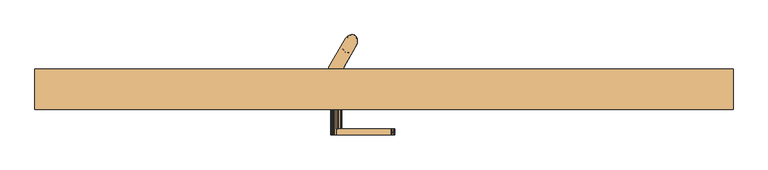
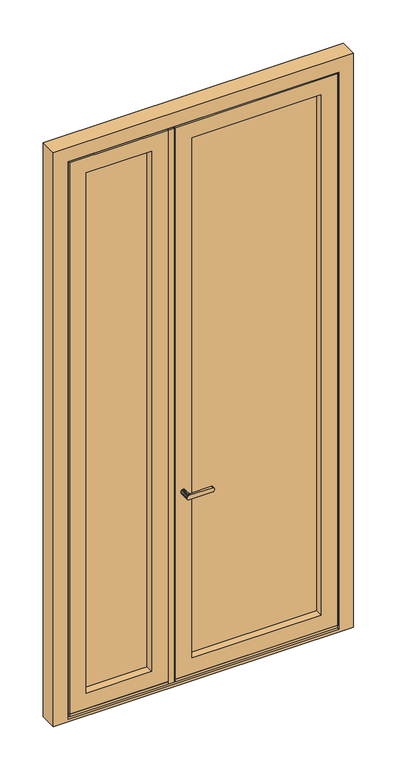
"""IFC4 building model written with IfcOpenShell, lengths in millimetres: door geometry, RDC Tierce."""

from ifc_helpers import new_model, si_unit, frame, origin, place, context, project, spatial, polyline, outline, extrude, faceted_brep, source, transform, mapped, element, save


def door_4f4fa615(model_context):
    return source(origin(), model_context, "Body", "SolidModel", [
        extrude(outline(polyline([(701.0, -24.0), (1397.0, -24.0), (1397.0, -62.0), (701.0, -62.0), (701.0, -24.0)])), frame((0.0, 0.0, 260.0), z_axis=(0.0, 0.0, 1.0), x_axis=(1.0, 0.0, 0.0)), (0.0, 0.0, 1.0), 2867.0),
        faceted_brep([(714.2287431, 56.5957857, 3173.5), (712.3389959, 59.5301259, 3173.5), (709.7797595, 61.6325784, 3173.5), (706.6793647, 62.7977178, 3173.5), (703.1932781, 62.9671188, 3173.5), (699.4963068, 62.1322872, 3173.5), (695.7738322, 60.3350848, 3173.5), (692.212515, 57.6656309, 3173.5), (688.9909342, 54.257783, 3173.5), (686.2706335, 50.2824248, 3173.5), (684.1880202, 45.9388975, 3173.5), (682.847525, 41.4450036, 3173.5), (682.3163661, 37.0260857, 3173.5), (682.6211779, 32.9037268, 3173.5), (683.7466761, 29.2846393, 3173.5), (685.6364232, 26.3502991, 3173.5), (688.1956596, 24.2478466, 3173.5), (691.2960545, 23.0827073, 3173.5), (694.7821411, 22.9133062, 3173.5), (698.4791124, 23.7481378, 3173.5), (702.2015869, 25.5453402, 3173.5), (705.7629042, 28.2147941, 3173.5), (708.9844849, 31.622642, 3173.5), (711.7047856, 35.5980002, 3173.5), (713.787399, 39.9415275, 3173.5), (715.1278941, 44.4354214, 3173.5), (715.6590531, 48.8543393, 3173.5), (715.3542412, 52.9766982, 3173.5), (691.2960545, 23.0827073, 213.5), (688.1956596, 24.2478466, 213.5), (685.6364232, 26.3502991, 213.5), (683.7466761, 29.2846393, 213.5), (682.6211779, 32.9037268, 213.5), (682.3163661, 37.0260857, 213.5), (682.847525, 41.4450036, 213.5), (684.1880202, 45.9388975, 213.5), (686.2706335, 50.2824248, 213.5), (688.9909342, 54.257783, 213.5), (692.212515, 57.6656309, 213.5), (695.7738322, 60.3350848, 213.5), (699.4963068, 62.1322872, 213.5), (703.1932781, 62.9671188, 213.5), (706.6793647, 62.7977178, 213.5), (709.7797595, 61.6325784, 213.5), (712.3389959, 59.5301259, 213.5), (714.2287431, 56.5957857, 213.5), (715.3542412, 52.9766982, 213.5), (715.6590531, 48.8543393, 213.5), (715.1278941, 44.4354214, 213.5), (713.787399, 39.9415275, 213.5), (711.7047856, 35.5980002, 213.5), (708.9844849, 31.622642, 213.5), (705.7629042, 28.2147941, 213.5), (702.2015869, 25.5453402, 213.5), (698.4791124, 23.7481378, 213.5), (694.7821411, 22.9133062, 213.5), (709.5500442, 61.7611995, 3109.7202739), (714.8914925, 54.8611962, 306.4622832), (711.7047856, 35.5980002, 305.882384), (701.359707, 62.6737836, 3080.5377144), (701.3597056, 62.6737832, 297.5878259), (708.288042, 62.3371112, 368.3639702), (696.2749555, 60.633364, 369.6983238), (702.7379336, 62.9171769, 447.5991387), (696.9312514, 60.9970291, 1923.1622134), (708.8477063, 62.1075509, 1878.9479538), (697.4746887, 61.2753443, 1829.1061855), (714.4154152, 56.1711125, 2941.5941552), (711.1357621, 60.6929778, 3018.6360152), (715.6668092, 49.4374691, 3017.3016839), (711.7047856, 35.5980002, 3081.117616), (686.2706335, 50.2824248, 3081.1176142), (686.2706335, 50.2824248, 305.88238), (698.8801608, 61.9007366, 2991.9159098), (711.7047856, 35.5980002, 398.264768), (715.4617857, 52.3273204, 395.0841039), (710.0060067, 61.4979492, 277.27972), (698.6001748, 61.7869455, 1361.207705), (710.2203303, 61.3627966, 1415.6471907), (711.023847, 60.7836018, 1319.9077775), (707.9504132, 62.4572952, 528.0009637), (712.8427731, 58.9165369, 460.8307156), (697.33436, 61.2054407, 2664.1031244), (686.2706335, 50.2824248, 2710.4119208), (697.3472504, 61.2119189, 2756.8613183), (714.8914918, 54.8611986, 3089.4121677), (709.8435923, 61.5954092, 1600.8824188), (715.6551643, 50.1422464, 1651.9272043), (715.6145429, 50.9196575, 1554.573611), (686.2706335, 50.2824248, 2988.7352283), (697.7607429, 61.4136252, 2849.455968), (686.2706335, 50.2824248, 2803.029539), (686.2706335, 50.2824248, 2803.9704641), (686.2706335, 50.2824248, 2895.8823837), (708.3194564, 62.3252466, 769.1927828), (715.6316062, 50.6570795, 813.9855457), (715.6508223, 48.5987754, 721.6031625), (709.325835, 61.879234, 2710.4119319), (715.6423651, 50.4557224, 2388.1321376), (709.8406655, 61.5971273, 2433.4275348), (715.6136314, 50.9323319, 2480.6321356), (697.4594893, 61.2678387, 2570.094555), (709.3258351, 61.8792339, 2617.7675376), (709.7156535, 61.6692748, 2525.1767042), (711.7047856, 35.5980002, 860.1766878), (715.658226, 50.04303, 900.9287605), (711.7047856, 35.5980002, 952.5590718), (715.6423651, 50.4557225, 2295.5145235), (711.7047856, 35.5980002, 2249.2056961), (715.6207347, 50.8303552, 2201.0537221), (710.0319523, 61.4819893, 1788.9182175), (710.9447331, 60.8461042, 1694.8280712), (698.5069092, 61.7478511, 1732.6163357), (715.6464254, 50.3680714, 2573.0145176), (709.0853776, 61.9979308, 1134.754917), (697.0777018, 61.0740541, 1093.585659), (697.42851, 61.2524913, 1183.5150777), (711.7047856, 35.5980002, 1508.264768), (715.6325405, 50.6409754, 1461.9559969), (711.7047856, 35.5980002, 1415.6471519), (715.6439583, 50.4222865, 1371.4406735), (715.5490822, 51.6447667, 1925.0440673), (715.6323711, 50.6439126, 1832.4264532), (715.5783602, 51.3567772, 2664.0897353), (711.7047856, 35.5980002, 2434.4409282), (711.7047856, 35.5980002, 2432.5590722), (711.7047856, 35.5980002, 2341.8233122), (710.4638748, 61.1997646, 2341.8233312), (698.4665288, 61.7307401, 2384.8851606), (708.6772226, 62.1816353, 1969.471021), (696.5084637, 60.7662363, 1645.4269877), (686.2706335, 50.2824248, 1969.470993), (697.1346464, 61.1036002, 2017.9320828), (706.202379, 62.8834207, 2930.7084554), (711.2384988, 60.6074467, 2864.0921725), (686.2706335, 50.2824248, 1599.2357585), (686.2706335, 50.2824248, 1600.882384), (686.2706335, 50.2824248, 1691.6181443), (697.5910481, 61.3322747, 1457.4592045), (698.7651092, 61.854626, 1272.1664524), (686.2706335, 50.2824248, 1229.7062268), (686.2706335, 50.2824248, 1230.4119199), (686.2706335, 50.2824248, 1322.0886068), (709.8139395, 61.6127544, 1224.4782647), (715.6312245, 50.6635968, 1184.1031546), (715.6592426, 50.0061998, 1739.8088391), (711.7047856, 35.5980002, 1786.117616), (711.7047856, 35.5980002, 1784.2357596), (711.7047856, 35.5980002, 1693.5), (686.2706335, 50.2824248, 1876.8533748), (686.2706335, 50.2824248, 1878.735232), (697.836699, 61.4493953, 2476.0712384), (711.7047856, 35.5980002, 2339.941457), (686.2706335, 50.2824248, 2339.941454), (686.2706335, 50.2824248, 2341.8233122), (686.2706335, 50.2824248, 2432.5590722), (711.7047856, 35.5980002, 2711.5880801), (715.5559469, 51.5809697, 2760.2029636), (709.7517709, 61.6486774, 1508.2251806), (697.3575759, 61.2170997, 2201.0150551), (709.7143348, 61.6700231, 2156.5881032), (697.331828, 61.2041669, 2108.3974412), (709.3844164, 61.8490917, 2062.9662927), (715.5760741, 51.3809152, 2106.5480553), (715.468664, 52.2800512, 2015.8333542), (711.7047856, 35.5980002, 767.7943039), (696.8449658, 60.9509461, 1008.1234025), (686.2706335, 50.2824248, 1044.9414551), (715.6031366, 47.7531606, 461.1498017), (711.7047856, 35.5980002, 490.6471519), (711.7047856, 35.5980002, 583.0295359), (715.5919921, 51.2055472, 536.8383937), (715.6424952, 50.4530358, 627.5817946), (711.8603882, 60.0377675, 689.6168276), (702.6770888, 62.9093372, 619.4560475), (698.0582356, 61.5514578, 713.3140472), (711.7047856, 35.5980002, 1137.7943039), (715.5868578, 51.2640699, 1085.3241351), (715.6628611, 49.8487196, 1276.7207687), (692.3533947, 57.7909707, 444.4560006), (686.2706335, 50.2824248, 398.2647658), (686.2706335, 50.2824248, 490.6471517), (686.2706335, 50.2824248, 952.5590692), (695.9608862, 60.4485303, 906.3679313), (686.2706335, 50.2824248, 860.1766834), (711.7451887, 60.1504562, 621.8958332), (711.7047856, 35.5980002, 675.4119199), (709.7797594, 61.6325785, 853.4847613), (697.3487748, 61.2126842, 813.9855493), (695.0775459, 59.8904181, 2924.3179136), (686.2706335, 50.2824248, 2896.3528481), (708.2942739, 62.3347669, 2788.9717797), (711.7047856, 35.5980002, 2988.735232), (711.7047856, 35.5980002, 2896.3528481), (715.1636374, 44.6084454, 2942.5440454), (686.2706335, 50.2824248, 2617.7943027), (686.2706335, 50.2824248, 2619.2056961), (686.2706335, 50.2824248, 2711.5880801), (686.2706335, 50.2824248, 2434.4409282), (686.2706335, 50.2824248, 2525.1766903), (711.7047856, 35.5980002, 2526.8233122), (711.7047856, 35.5980002, 2525.1766874), (711.7047856, 35.5980002, 2803.9704641), (711.7047856, 35.5980002, 2803.029539), (698.1684803, 61.6009922, 2293.632669), (686.2706335, 50.2824248, 2154.7062235), (686.2706335, 50.2824248, 2247.3238417), (686.2706335, 50.2824248, 2249.2056961), (710.4007504, 61.2430151, 2250.0419288), (711.7047856, 35.5980002, 2619.2056961), (711.7047856, 35.5980002, 2617.7943085), (686.2706335, 50.2824248, 2526.8233122), (711.7047856, 35.5980002, 2710.4119238), (711.7047856, 35.5980002, 2156.5880801), (711.7047856, 35.5980002, 1971.3528481), (711.7047856, 35.5980002, 1969.4709901), (711.7047856, 35.5980002, 1878.735232), (711.7047856, 35.5980002, 2063.9704641), (711.7047856, 35.5980002, 2062.0886054), (686.2706335, 50.2824248, 2156.5880801), (686.2706335, 50.2824248, 2062.0886053), (686.2706335, 50.2824248, 2063.9704641), (711.7047856, 35.5980002, 2154.7062206), (711.7047856, 35.5980002, 2247.3238359), (686.2706335, 50.2824248, 1971.3528481), (686.2706335, 50.2824248, 1693.5), (686.2706335, 50.2824248, 1784.2357567), (686.2706335, 50.2824248, 1786.117616), (686.2706335, 50.2824248, 1506.8533726), (697.7431585, 61.4052876, 1553.0446058), (686.2706335, 50.2824248, 1508.264768), (686.2706335, 50.2824248, 1323.0295359), (686.2706335, 50.2824248, 1414.4709868), (686.2706335, 50.2824248, 1137.3238409), (686.2706335, 50.2824248, 1137.7943039), (711.7047856, 35.5980002, 1230.4119199), (711.7047856, 35.5980002, 1229.7062181), (711.7047856, 35.5980002, 1323.0295359), (711.7047856, 35.5980002, 1322.0886068), (708.5351075, 62.2405737, 1044.9415053), (715.3603367, 52.9435278, 986.3205896), (711.7047856, 35.5980002, 1045.1766878), (707.3569507, 62.6374177, 948.5095776), (711.7047856, 35.5980002, 1600.882384), (711.7047856, 35.5980002, 1599.2357615), (711.7047856, 35.5980002, 1876.8533749), (711.7047856, 35.5980002, 1414.4709956), (711.7047856, 35.5980002, 1506.8533785), (686.2706335, 50.2824248, 1415.6471519), (686.2706335, 50.2824248, 1045.1766878), (686.2706335, 50.2824248, 767.7943034), (686.2706335, 50.2824248, 583.0295375), (686.2706335, 50.2824248, 675.4119234), (692.3750487, 57.8100799, 629.2207827), (711.7047856, 35.5980002, 1691.6181444), (695.4206457, 60.1139705, 536.8383992), (711.7047856, 35.5980002, 1044.9414522), (711.7047856, 35.5980002, 1137.3238351), (715.6533368, 48.6679399, 2850.1616636), (711.7047856, 35.5980002, 2895.8823866), (688.425375, 24.1192255, 3109.7202739), (683.0839266, 31.0192288, 306.4622832), (696.6157121, 23.2066414, 3080.5377144), (696.6157135, 23.2066418, 297.5878259), (689.6873772, 23.5433138, 368.3639702), (701.7004637, 25.247061, 369.6983238), (695.2374855, 22.9632481, 447.5991387), (689.2981965, 23.6987897, 1969.471021), (701.0441677, 24.8833959, 1923.1622134), (700.8407727, 24.7768248, 2017.9320828), (683.560004, 29.7093125, 2941.5941552), (686.839657, 25.1874472, 3018.6360152), (682.3086099, 36.4429559, 3017.3016839), (699.0952583, 23.9796884, 2991.9159098), (682.5136334, 33.5531046, 395.0841039), (687.9694124, 24.3824758, 277.27972), (699.3752444, 24.0934795, 1361.207705), (687.7550888, 24.5176284, 1415.6471907), (686.9515721, 25.0968232, 1319.9077775), (690.025006, 23.4231298, 528.0009637), (685.132646, 26.9638881, 460.8307156), (700.6410592, 24.6749843, 2664.1031244), (700.6281687, 24.6685061, 2756.8613183), (683.0839274, 31.0192264, 3089.4121677), (688.1318269, 24.2850158, 1600.8824188), (682.3202548, 35.7381786, 1651.9272043), (682.3608763, 34.9607675, 1554.573611), (700.2146762, 24.4667998, 2849.455968), (689.6559628, 23.5551785, 769.1927828), (682.3438129, 35.2233455, 813.9855457), (682.3245969, 37.2816496, 721.6031625), (688.6495841, 24.001191, 2710.4119319), (682.333054, 35.4247026, 2388.1321376), (688.1347536, 24.2832977, 2433.4275348), (682.3617877, 34.9480931, 2480.6321356), (700.5159298, 24.6125863, 2570.094555), (688.649584, 24.0011911, 2617.7675376), (688.2597656, 24.2111502, 2525.1767042), (682.3171931, 35.837395, 900.9287605), (682.333054, 35.4247025, 2295.5145235), (682.3546845, 35.0500698, 2201.0537221), (687.9434669, 24.3984357, 1788.9182175), (687.030686, 25.0343208, 1694.8280712), (699.4685099, 24.1325739, 1732.6163357), (682.3289937, 35.5123536, 2573.0145176), (688.8900416, 23.8824942, 1134.754917), (700.8977174, 24.8063709, 1093.585659), (700.5469091, 24.6279337, 1183.5150777), (682.3428786, 35.2394496, 1461.9559969), (682.4263369, 34.2356583, 1925.0440673), (682.3430481, 35.2365124, 1832.4264532), (689.1277128, 23.7728741, 1878.9479538), (682.397059, 34.5236478, 2664.0897353), (687.5115443, 24.6806604, 2341.8233312), (699.5088904, 24.1496849, 2384.8851606), (700.5007304, 24.6050807, 1829.1061855), (701.4669554, 25.1141887, 1645.4269877), (691.7730402, 22.9970043, 2930.7084554), (686.7369203, 25.2729783, 2864.0921725), (700.3843711, 24.5481503, 1457.4592045), (699.2103099, 24.025799, 1272.1664524), (688.1614797, 24.2676706, 1224.4782647), (682.3441947, 35.2168282, 1184.1031546), (682.3161766, 35.8742252, 1739.8088391), (700.1387201, 24.4310297, 2476.0712384), (682.4194722, 34.2994553, 2760.2029636), (688.2236482, 24.2317476, 1508.2251806), (700.6178432, 24.6633253, 2201.0150551), (688.2610843, 24.2104019, 2156.5881032), (700.6435911, 24.6762581, 2108.3974412), (688.5910028, 24.0313333, 2062.9662927), (682.3993451, 34.4995098, 2106.5480553), (682.5067551, 33.6003738, 2015.8333542), (701.1304533, 24.9294789, 1008.1234025), (682.3722825, 38.1272644, 461.1498017), (682.383427, 34.6748778, 536.8383937), (682.332924, 35.4273892, 627.5817946), (686.1150309, 25.8426575, 689.6168276), (695.2983304, 22.9710878, 619.4560475), (699.9171836, 24.3289672, 713.3140472), (682.3885613, 34.6163551, 1085.3241351), (682.312558, 36.0317054, 1276.7207687), (705.6220244, 28.0894543, 444.4560006), (702.014533, 25.4318947, 906.3679313), (686.2302305, 25.7299688, 621.8958332), (688.1956597, 24.2478465, 853.4847613), (700.6266443, 24.6677408, 813.9855493), (702.8978732, 25.9900069, 2924.3179136), (689.6811452, 23.5456581, 2788.9717797), (682.8117817, 41.2719797, 2942.5440454), (699.8069388, 24.2794328, 2293.632669), (687.5746687, 24.6374099, 2250.0419288), (700.2322606, 24.4751374, 1553.0446058), (682.3314608, 35.4581385, 1371.4406735), (689.4403116, 23.6398513, 1044.9415053), (682.6150825, 32.9368972, 986.3205896), (690.6184684, 23.2430073, 948.5095776), (705.6003704, 28.0703451, 629.2207827), (702.5547734, 25.7664545, 536.8383992), (682.3220823, 37.2124851, 2850.1616636)], [[[0, 1, 2, 3, 4, 5, 6, 7, 8, 9, 10, 11, 12, 13, 14, 15, 16, 17, 18, 19, 20, 21, 22, 23, 24, 25, 26, 27]], [[28, 29, 30, 31, 32, 33, 34, 35, 36, 37, 38, 39, 40, 41, 42, 43, 44, 45, 46, 47, 48, 49, 50, 51, 52, 53, 54, 55]], [[2, 1, 56]], [[57, 58, 48]], [[7, 6, 59]], [[5, 4, 59]], [[38, 60, 39]], [[61, 62, 63]], [[64, 65, 66]], [[67, 68, 69]], [[40, 60, 41]], [[3, 56, 4]], [[24, 23, 70]], [[58, 50, 49]], [[71, 9, 8]], [[37, 36, 72]], [[68, 73, 59]], [[60, 40, 39]], [[74, 58, 75]], [[45, 76, 57]], [[77, 78, 79]], [[71, 8, 7]], [[63, 80, 81]], [[82, 83, 84]], [[25, 85, 26]], [[24, 70, 25]], [[86, 87, 88]], [[75, 58, 57]], [[72, 62, 60]], [[5, 59, 6]], [[89, 71, 73]], [[70, 69, 85]], [[42, 41, 76]], [[46, 57, 47]], [[90, 91, 92, 93]], [[94, 95, 96]], [[43, 42, 76]], [[84, 97, 82]], [[85, 27, 26]], [[98, 99, 100]], [[4, 56, 59]], [[68, 56, 85]], [[101, 102, 103]], [[46, 45, 57]], [[58, 49, 48]], [[76, 41, 60]], [[59, 71, 7]], [[45, 44, 76]], [[56, 1, 0]], [[75, 57, 61]], [[61, 76, 60]], [[27, 85, 0]], [[47, 57, 48]], [[37, 72, 38]], [[104, 105, 106]], [[0, 85, 56]], [[38, 72, 60]], [[73, 71, 59]], [[68, 85, 69]], [[61, 60, 62]], [[25, 70, 85]], [[107, 108, 109]], [[110, 111, 112]], [[103, 113, 100]], [[114, 115, 116]], [[117, 118, 88]], [[118, 119, 120]], [[121, 122, 65]], [[123, 102, 97]], [[98, 124, 125, 126]], [[127, 128, 99]], [[129, 65, 64]], [[111, 86, 130]], [[131, 132, 64]], [[112, 66, 110]], [[133, 67, 134]], [[130, 135, 136, 137]], [[77, 138, 78]], [[139, 140, 141, 142]], [[143, 144, 114]], [[145, 146, 147, 148]], [[64, 149, 150, 131]], [[101, 103, 151]], [[107, 126, 152, 108]], [[128, 153, 154, 155]], [[156, 123, 157]], [[78, 138, 158]], [[159, 160, 161]], [[162, 163, 164]], [[132, 161, 162]], [[104, 165, 95]], [[166, 167, 115]], [[168, 169, 74]], [[170, 171, 172]], [[173, 174, 175]], [[176, 177, 144]], [[144, 143, 178]], [[179, 180, 181]], [[170, 169, 171]], [[182, 183, 184]], [[185, 173, 172]], [[171, 168, 81]], [[186, 172, 96]], [[81, 80, 171]], [[187, 105, 95]], [[173, 175, 94]], [[188, 187, 94]], [[189, 93, 190, 89]], [[84, 90, 191]], [[97, 157, 123]], [[192, 193, 194]], [[91, 90, 84]], [[90, 189, 133]], [[133, 134, 90]], [[82, 195, 196, 83]], [[97, 84, 191]], [[84, 83, 197, 91]], [[195, 82, 101]], [[82, 97, 102]], [[151, 155, 198, 199]], [[101, 151, 199]], [[82, 102, 101]], [[113, 103, 102]], [[100, 200, 201, 124]], [[157, 202, 203, 156]], [[153, 128, 204]], [[151, 103, 99]], [[161, 205, 159]], [[204, 206, 207, 153]], [[208, 159, 204]], [[73, 68, 133]], [[134, 157, 191]], [[113, 209, 210, 200]], [[209, 113, 123]], [[99, 103, 100]], [[101, 199, 211, 195]], [[102, 123, 113]], [[113, 200, 100]], [[123, 156, 212, 209]], [[151, 99, 128]], [[107, 98, 126]], [[155, 151, 128]], [[204, 128, 127]], [[127, 99, 98]], [[124, 98, 100]], [[127, 98, 107]], [[208, 107, 109]], [[107, 208, 127]], [[160, 109, 163]], [[109, 213, 163]], [[127, 208, 204]], [[208, 109, 160]], [[163, 162, 160]], [[121, 214, 215, 216]], [[164, 217, 218, 214]], [[217, 164, 163]], [[65, 129, 121]], [[204, 159, 206]], [[121, 129, 164]], [[159, 205, 219, 206]], [[161, 220, 221, 205]], [[160, 159, 208]], [[220, 161, 132]], [[160, 162, 161]], [[163, 213, 222, 217]], [[109, 108, 223, 213]], [[129, 132, 162]], [[132, 131, 224, 220]], [[66, 149, 64]], [[129, 64, 132]], [[112, 137, 225, 226]], [[66, 112, 226]], [[137, 112, 130]], [[111, 130, 112]], [[65, 110, 66]], [[122, 110, 65]], [[66, 226, 227, 149]], [[228, 229, 138]], [[229, 228, 230, 135]], [[229, 86, 158]], [[77, 142, 231, 232]], [[138, 77, 232]], [[140, 139, 116]], [[79, 139, 77]], [[233, 116, 115]], [[116, 233, 234, 140]], [[143, 116, 139]], [[144, 235, 236, 176]], [[118, 120, 78]], [[178, 235, 144]], [[178, 237, 238, 235]], [[144, 177, 114]], [[239, 177, 240]], [[177, 241, 240]], [[239, 240, 242]], [[242, 105, 187]], [[88, 243, 244, 117]], [[122, 216, 245, 146]], [[122, 145, 110]], [[216, 122, 121]], [[111, 110, 145]], [[87, 243, 88]], [[148, 87, 145]], [[158, 86, 88]], [[229, 158, 138]], [[118, 78, 158]], [[88, 118, 158]], [[120, 79, 78]], [[120, 119, 246, 237]], [[118, 117, 247, 119]], [[178, 79, 120]], [[162, 164, 129]], [[121, 164, 214]], [[138, 232, 248, 228]], [[183, 182, 166]], [[239, 115, 114]], [[115, 167, 249, 233]], [[239, 114, 177]], [[143, 114, 116]], [[115, 239, 166]], [[188, 183, 187]], [[175, 250, 188]], [[184, 188, 250]], [[242, 187, 183]], [[251, 252, 253]], [[185, 172, 171]], [[104, 95, 105]], [[106, 105, 240]], [[94, 187, 95]], [[146, 145, 122]], [[111, 145, 87]], [[86, 111, 87]], [[87, 148, 254, 243]], [[253, 252, 175]], [[255, 253, 174]], [[130, 229, 135]], [[229, 130, 86]], [[143, 139, 79]], [[142, 77, 139]], [[237, 178, 120]], [[143, 79, 178]], [[96, 165, 186]], [[174, 173, 185]], [[186, 170, 172]], [[167, 166, 182]], [[166, 239, 242]], [[240, 241, 256, 106]], [[177, 176, 257, 241]], [[242, 240, 105]], [[181, 251, 255]], [[180, 62, 72]], [[75, 61, 81]], [[62, 179, 63]], [[255, 80, 63]], [[258, 193, 259, 202]], [[192, 69, 70]], [[202, 157, 258]], [[69, 194, 67]], [[258, 134, 67]], [[184, 183, 188]], [[242, 183, 166]], [[188, 94, 175]], [[96, 173, 94]], [[252, 250, 175]], [[63, 81, 61]], [[168, 75, 81]], [[165, 96, 95]], [[173, 96, 172]], [[194, 193, 258]], [[134, 258, 157]], [[67, 133, 68]], [[189, 73, 133]], [[73, 189, 89]], [[93, 189, 90]], [[179, 181, 255]], [[80, 255, 174]], [[75, 168, 74]], [[169, 168, 171]], [[97, 191, 157]], [[134, 191, 90]], [[43, 76, 44]], [[57, 76, 61]], [[2, 56, 3]], [[59, 56, 68]], [[185, 80, 174]], [[80, 185, 171]], [[180, 179, 62]], [[63, 179, 255]], [[192, 194, 69]], [[67, 194, 258]], [[251, 253, 255]], [[174, 253, 175]], [[16, 15, 260]], [[261, 72, 34]], [[21, 20, 262]], [[19, 18, 262]], [[52, 263, 53]], [[264, 265, 266]], [[267, 268, 269]], [[270, 271, 272]], [[54, 263, 55]], [[17, 260, 18]], [[10, 9, 71]], [[72, 36, 35]], [[70, 23, 22]], [[51, 50, 58]], [[271, 273, 262]], [[263, 54, 53]], [[180, 72, 274]], [[31, 275, 261]], [[276, 277, 278]], [[70, 22, 21]], [[266, 279, 280]], [[281, 212, 282]], [[11, 283, 12]], [[10, 71, 11]], [[284, 285, 286]], [[274, 72, 261]], [[58, 265, 263]], [[19, 262, 20]], [[192, 70, 273]], [[71, 272, 283]], [[28, 55, 275]], [[32, 261, 33]], [[287, 203, 202, 259]], [[288, 289, 290]], [[29, 28, 275]], [[282, 291, 281]], [[283, 13, 12]], [[292, 293, 294]], [[18, 260, 262]], [[271, 260, 283]], [[295, 296, 297]], [[32, 31, 261]], [[72, 35, 34]], [[275, 55, 263]], [[262, 70, 21]], [[31, 30, 275]], [[260, 15, 14]], [[274, 261, 264]], [[264, 275, 263]], [[13, 283, 14]], [[33, 261, 34]], [[51, 58, 52]], [[184, 298, 182]], [[14, 283, 260]], [[52, 58, 263]], [[273, 70, 262]], [[271, 283, 272]], [[264, 263, 265]], [[11, 71, 283]], [[299, 207, 300]], [[301, 302, 303]], [[297, 304, 294]], [[305, 306, 307]], [[286, 136, 135, 230]], [[286, 230, 308]], [[309, 310, 311]], [[312, 296, 291]], [[292, 198, 155, 154]], [[313, 314, 293]], [[301, 315, 311]], [[302, 284, 316]], [[215, 269, 268]], [[303, 315, 301]], [[317, 270, 318]], [[316, 244, 243, 254]], [[276, 319, 277]], [[320, 236, 235, 238]], [[321, 322, 305]], [[323, 227, 226, 225]], [[268, 245, 216, 215]], [[295, 297, 324]], [[299, 154, 153, 207]], [[314, 152, 126, 125]], [[197, 312, 325]], [[277, 319, 326]], [[327, 328, 329]], [[330, 331, 332]], [[269, 329, 330]], [[184, 250, 289]], [[333, 256, 306]], [[334, 181, 180]], [[251, 335, 336]], [[337, 338, 339]], [[234, 340, 322]], [[322, 321, 341]], [[342, 74, 169]], [[251, 181, 335]], [[106, 343, 104]], [[344, 337, 336]], [[335, 334, 280]], [[252, 336, 290]], [[280, 279, 335]], [[345, 298, 289]], [[337, 339, 288]], [[346, 345, 288]], [[347, 259, 193, 192]], [[282, 287, 348]], [[291, 325, 312]], [[89, 190, 349]], [[203, 287, 282]], [[287, 347, 317]], [[317, 318, 287]], [[281, 210, 209, 212]], [[291, 282, 348]], [[282, 212, 156, 203]], [[210, 281, 295]], [[281, 291, 296]], [[324, 125, 124, 201]], [[295, 324, 201]], [[281, 296, 295]], [[304, 297, 296]], [[294, 211, 199, 198]], [[325, 92, 91, 197]], [[152, 314, 350]], [[324, 297, 293]], [[329, 222, 327]], [[350, 223, 108, 152]], [[351, 327, 350]], [[273, 271, 317]], [[318, 325, 348]], [[304, 196, 195, 211]], [[196, 304, 312]], [[293, 297, 294]], [[295, 201, 200, 210]], [[296, 312, 304]], [[304, 211, 294]], [[312, 197, 83, 196]], [[324, 293, 314]], [[299, 292, 154]], [[125, 324, 314]], [[350, 314, 313]], [[313, 293, 292]], [[198, 292, 294]], [[313, 292, 299]], [[351, 299, 300]], [[299, 351, 313]], [[328, 300, 331]], [[300, 219, 331]], [[313, 351, 350]], [[351, 300, 328]], [[331, 330, 328]], [[309, 224, 131, 150]], [[332, 221, 220, 224]], [[221, 332, 331]], [[311, 267, 309]], [[350, 327, 223]], [[309, 267, 332]], [[327, 222, 213, 223]], [[329, 218, 217, 222]], [[328, 327, 351]], [[218, 329, 269]], [[328, 330, 329]], [[331, 219, 205, 221]], [[300, 207, 206, 219]], [[267, 269, 330]], [[269, 215, 214, 218]], [[245, 268, 315]], [[268, 267, 311]], [[303, 254, 148, 147]], [[315, 303, 147]], [[254, 303, 316]], [[302, 316, 303]], [[268, 311, 315]], [[310, 301, 311]], [[315, 147, 146, 245]], [[247, 352, 319]], [[352, 247, 117, 244]], [[352, 284, 326]], [[276, 238, 237, 246]], [[319, 276, 246]], [[236, 320, 307]], [[278, 320, 276]], [[257, 307, 306]], [[307, 257, 176, 236]], [[321, 307, 320]], [[322, 141, 140, 234]], [[308, 353, 277]], [[341, 141, 322]], [[341, 231, 142, 141]], [[322, 340, 305]], [[354, 340, 355]], [[340, 249, 355]], [[354, 355, 356]], [[356, 298, 345]], [[136, 286, 285]], [[310, 150, 149, 227]], [[310, 323, 301]], [[150, 310, 309]], [[302, 301, 323]], [[284, 286, 326]], [[225, 285, 323]], [[308, 326, 286]], [[352, 326, 319]], [[308, 277, 326]], [[278, 277, 353]], [[308, 248, 353]], [[353, 248, 232, 231]], [[308, 230, 228, 248]], [[341, 278, 353]], [[330, 332, 267]], [[309, 332, 224]], [[319, 246, 119, 247]], [[343, 106, 333]], [[354, 306, 305]], [[306, 256, 241, 257]], [[354, 305, 340]], [[321, 305, 307]], [[306, 354, 333]], [[346, 343, 345]], [[339, 165, 346]], [[104, 346, 165]], [[356, 345, 343]], [[170, 186, 357]], [[344, 336, 335]], [[184, 289, 298]], [[182, 298, 355]], [[288, 345, 289]], [[227, 323, 310]], [[302, 323, 285]], [[284, 302, 285]], [[285, 225, 137, 136]], [[357, 186, 339]], [[358, 357, 338]], [[316, 352, 244]], [[352, 316, 284]], [[321, 320, 278]], [[238, 276, 320]], [[231, 341, 353]], [[321, 278, 341]], [[290, 250, 252]], [[338, 337, 344]], [[252, 251, 336]], [[256, 333, 106]], [[333, 354, 356]], [[355, 249, 167, 182]], [[340, 234, 233, 249]], [[356, 355, 298]], [[169, 170, 358]], [[74, 265, 58]], [[274, 264, 280]], [[265, 342, 266]], [[358, 279, 266]], [[359, 190, 93, 92]], [[89, 272, 71]], [[92, 325, 359]], [[272, 349, 270]], [[359, 318, 270]], [[104, 343, 346]], [[356, 343, 333]], [[346, 288, 339]], [[290, 337, 288]], [[186, 165, 339]], [[266, 280, 264]], [[334, 274, 280]], [[250, 290, 289]], [[337, 290, 336]], [[349, 190, 359]], [[318, 359, 325]], [[270, 317, 271]], [[347, 273, 317]], [[273, 347, 192]], [[259, 347, 287]], [[342, 169, 358]], [[279, 358, 338]], [[274, 334, 180]], [[181, 334, 335]], [[291, 348, 325]], [[318, 348, 287]], [[29, 275, 30]], [[261, 275, 264]], [[16, 260, 17]], [[262, 260, 271]], [[344, 279, 338]], [[279, 344, 335]], [[74, 342, 265]], [[266, 342, 358]], [[89, 349, 272]], [[270, 349, 359]], [[170, 357, 358]], [[338, 357, 339]]]),
        faceted_brep([(685.9561005, -13.0, 243.5), (685.9561005, -9.0, 243.5), (652.0438995, -9.0, 243.5), (652.0438995, -13.0, 243.5), (685.9561005, -9.0, 213.5), (652.0438995, -9.0, 213.5), (685.9561005, -13.0, 209.5), (685.9561005, -9.0, 209.5), (652.0438995, -13.0, 209.5), (652.0438995, -9.0, 209.5), (712.3389949, 59.5301271, 213.5), (709.7797579, 61.6325794, 213.5), (706.6793625, 62.7977182, 213.5), (703.1932755, 62.9671186, 213.5), (699.4963038, 62.1322861, 213.5), (695.773829, 60.3350828, 213.5), (692.2125117, 57.6656279, 213.5), (688.9909311, 54.2577791, 213.5), (686.2706308, 50.2824201, 213.5), (711.7047856, 35.5980002, 213.5), (713.7873991, 39.9415279, 213.5), (715.1278943, 44.4354221, 213.5), (715.6590531, 48.8543403, 213.5), (715.354241, 52.9766994, 213.5), (714.2287425, 56.5957871, 213.5), (686.2706308, 50.2824201, 209.5), (688.9909311, 54.2577791, 209.5), (692.2125117, 57.6656279, 209.5), (695.773829, 60.3350828, 209.5), (699.4963038, 62.1322861, 209.5), (703.1932755, 62.9671186, 209.5), (706.6793625, 62.7977182, 209.5), (709.7797579, 61.6325794, 209.5), (712.3389949, 59.5301271, 209.5), (714.2287425, 56.5957871, 209.5), (715.354241, 52.9766994, 209.5), (715.6590531, 48.8543403, 209.5), (715.1278943, 44.4354221, 209.5), (713.7873991, 39.9415279, 209.5), (711.7047856, 35.5980002, 209.5), (686.2706308, 50.2824201, 211.9099144), (711.7047856, 35.5980002, 211.0900849), (713.3743289, 58.1586471, 211.5), (701.3597053, 62.6737832, 211.5), (715.6445577, 48.4468941, 211.5)], [[[0, 1, 2, 3]], [[4, 5, 2, 1]], [[6, 7, 4, 1, 0]], [[8, 6, 0, 3]], [[9, 8, 3, 2, 5]], [[10, 11, 12, 13, 14, 15, 16, 17, 18, 5, 4, 19, 20, 21, 22, 23, 24]], [[6, 8, 9, 25, 26, 27, 28, 29, 30, 31, 32, 33, 34, 35, 36, 37, 38, 39, 7]], [[9, 5, 18, 40, 25]], [[7, 39, 41, 19, 4]], [[40, 18, 17]], [[26, 25, 40]], [[24, 42, 10]], [[43, 27, 40]], [[40, 27, 26]], [[43, 30, 29]], [[15, 43, 16]], [[13, 43, 14]], [[32, 31, 43]], [[41, 39, 38]], [[20, 19, 41]], [[28, 43, 29]], [[17, 16, 40]], [[31, 30, 43]], [[35, 34, 42]], [[28, 27, 43]], [[20, 41, 44]], [[15, 14, 43]], [[13, 12, 43]], [[40, 16, 43]], [[11, 43, 12]], [[32, 43, 42]], [[34, 33, 42]], [[35, 44, 36]], [[38, 37, 41]], [[37, 44, 41]], [[36, 44, 37]], [[44, 21, 20]], [[42, 43, 11]], [[32, 42, 33]], [[42, 11, 10]], [[23, 42, 24]], [[44, 42, 23]], [[35, 42, 44]], [[23, 22, 44]], [[22, 21, 44]]]),
        faceted_brep([(652.0438995, -13.0, 3143.5), (652.0438995, -9.0, 3143.5), (685.9561005, -9.0, 3143.5), (685.9561005, -13.0, 3143.5), (652.0438995, -9.0, 3173.5), (685.9561005, -9.0, 3173.5), (685.9561005, -9.0, 3177.5), (685.9561005, -13.0, 3177.5), (652.0438995, -13.0, 3177.5), (652.0438995, -9.0, 3177.5), (686.2706335, 50.2824248, 3173.5), (688.9909342, 54.257783, 3173.5), (692.212515, 57.6656309, 3173.5), (695.7738322, 60.3350848, 3173.5), (699.4963068, 62.1322872, 3173.5), (703.1932781, 62.9671188, 3173.5), (706.6793647, 62.7977178, 3173.5), (709.7797595, 61.6325784, 3173.5), (712.3389959, 59.5301259, 3173.5), (714.2287431, 56.5957857, 3173.5), (715.3542412, 52.9766982, 3173.5), (715.6590531, 48.8543393, 3173.5), (715.1278941, 44.4354214, 3173.5), (713.787399, 39.9415275, 3173.5), (711.7047856, 35.5980002, 3173.5), (712.3389959, 59.5301259, 3177.5), (709.7797595, 61.6325784, 3177.5), (706.6793647, 62.7977178, 3177.5), (703.1932781, 62.9671188, 3177.5), (699.4963068, 62.1322872, 3177.5), (695.7738322, 60.3350848, 3177.5), (692.212515, 57.6656309, 3177.5), (688.9909342, 54.257783, 3177.5), (686.2706335, 50.2824248, 3177.5), (711.7047856, 35.5980002, 3177.5), (713.787399, 39.9415275, 3177.5), (715.1278941, 44.4354214, 3177.5), (715.6590531, 48.8543393, 3177.5), (715.3542412, 52.9766982, 3177.5), (714.2287431, 56.5957857, 3177.5), (686.2706335, 50.2824248, 3175.9099144), (711.7047856, 35.5980002, 3175.0900851), (713.3743297, 58.1586458, 3175.5), (701.3597081, 62.6737838, 3175.5), (715.6445577, 48.4468931, 3175.5)], [[[0, 1, 2, 3]], [[2, 1, 4, 5]], [[3, 2, 5, 6, 7]], [[0, 3, 7, 8]], [[1, 0, 8, 9, 4]], [[5, 4, 10, 11, 12, 13, 14, 15, 16, 17, 18, 19, 20, 21, 22, 23, 24]], [[25, 26, 27, 28, 29, 30, 31, 32, 33, 9, 8, 7, 6, 34, 35, 36, 37, 38, 39]], [[4, 9, 33, 40, 10]], [[5, 24, 41, 34, 6]], [[40, 33, 32]], [[11, 10, 40]], [[39, 42, 25]], [[43, 12, 40]], [[40, 12, 11]], [[43, 15, 14]], [[30, 43, 31]], [[28, 43, 29]], [[17, 16, 43]], [[41, 24, 23]], [[35, 34, 41]], [[13, 43, 14]], [[32, 31, 40]], [[16, 15, 43]], [[20, 19, 42]], [[13, 12, 43]], [[35, 41, 44]], [[30, 29, 43]], [[28, 27, 43]], [[40, 31, 43]], [[26, 43, 27]], [[17, 43, 42]], [[19, 18, 42]], [[20, 44, 21]], [[23, 22, 41]], [[22, 44, 41]], [[21, 44, 22]], [[44, 36, 35]], [[42, 43, 26]], [[17, 42, 18]], [[42, 26, 25]], [[38, 42, 39]], [[44, 42, 38]], [[20, 42, 44]], [[38, 37, 44]], [[37, 36, 44]]]),
        faceted_brep([(619.5, -94.7, 3208.5), (619.5, -21.3, 3208.5), (619.5, -21.3, 178.5), (619.5, -94.7, 178.5), (599.0, -21.3, 3229.0), (599.0, -21.3, 158.0), (1499.0, -21.3, 158.0), (1499.0, -21.3, 3229.0), (1478.5, -21.3, 3208.5), (1478.5, -21.3, 178.5), (1478.5, -94.7, 178.5), (1478.5, -94.7, 3208.5), (1467.0, -94.7, 3197.0), (1467.0, -94.7, 190.0), (631.0, -94.7, 190.0), (631.0, -94.7, 3197.0), (631.0, -103.0, 3197.0), (631.0, -103.0, 190.0), (1467.0, -103.0, 190.0), (1467.0, -103.0, 3197.0), (1381.9999695, -103.0, 3111.9999695), (1381.9999695, -103.0, 275.0000305), (716.0000305, -103.0, 275.0000305), (716.0000305, -103.0, 3111.9999695), (716.0000305, -62.0, 3111.9999695), (716.0000305, -62.0, 275.0000305), (1381.9999695, -62.0, 275.0000305), (1397.0, -62.0, 3127.0), (1397.0, -62.0, 260.0), (701.0, -62.0, 260.0), (701.0, -62.0, 3127.0), (1381.9999695, -62.0, 3111.9999695), (701.0, -24.0, 3127.0), (701.0, -24.0, 260.0), (1397.0, -24.0, 260.0), (1397.0, -24.0, 3127.0), (1380.0, -24.0, 3110.0), (1380.0, -24.0, 277.0), (718.0, -24.0, 277.0), (718.0, -24.0, 3110.0), (718.0, -13.0, 3110.0), (718.0, -13.0, 277.0), (1380.0, -13.0, 277.0), (1499.0, -13.0, 3229.0), (1499.0, -13.0, 158.0), (599.0, -13.0, 158.0), (599.0, -13.0, 3229.0), (1380.0, -13.0, 3110.0)], [[[0, 1, 2, 3]], [[4, 5, 6, 7], [8, 9, 2, 1]], [[3, 2, 9, 10]], [[0, 3, 10, 11], [12, 13, 14, 15]], [[16, 15, 14, 17]], [[17, 14, 13, 18]], [[16, 17, 18, 19], [20, 21, 22, 23]], [[24, 23, 22, 25]], [[25, 22, 21, 26]], [[27, 28, 29, 30], [24, 25, 26, 31]], [[32, 30, 29, 33]], [[33, 29, 28, 34]], [[32, 33, 34, 35], [36, 37, 38, 39]], [[40, 39, 38, 41]], [[41, 38, 37, 42]], [[43, 44, 45, 46], [40, 41, 42, 47]], [[4, 46, 45, 5]], [[5, 45, 44, 6]], [[10, 9, 8, 11]], [[18, 13, 12, 19]], [[26, 21, 20, 31]], [[34, 28, 27, 35]], [[42, 37, 36, 47]], [[6, 44, 43, 7]], [[11, 8, 1, 0]], [[19, 12, 15, 16]], [[31, 20, 23, 24]], [[35, 27, 30, 32]], [[47, 36, 39, 40]], [[7, 43, 46, 4]]]),
        faceted_brep([(1474.0, -103.0, 3204.0), (1474.0, -94.7, 3204.0), (1474.0, -94.7, 167.8651688), (1474.0, -103.0, 165.0072496), (76.0, -94.7, 3204.0), (76.0, -94.7, 167.8651688), (55.5, -94.7, 167.8651688), (55.5, -94.7, 3224.5), (1494.5, -94.7, 3224.5), (1494.5, -94.7, 167.8651688), (1494.5, -21.3, 3224.5), (1494.5, -21.3, 164.3), (1494.5, -81.0, 164.3), (1494.5, -81.0, 170.0), (1494.5, -88.5, 170.0), (1506.0, -13.0006635, 150.0), (1506.0, -21.3, 150.0), (1506.0, -21.3, 3236.0), (1506.0, -13.0006635, 3236.0), (1550.0, -13.0006635, 150.0), (44.0, -13.0006635, 3236.0), (44.0, -13.0006635, 150.0), (0.0, -13.0006635, 150.0), (0.0, -13.0006635, 3280.0), (1550.0, -13.0006635, 3280.0), (76.0, -103.0, 3204.0), (76.0, -103.0, 165.0072496), (44.0, -21.3, 3236.0), (44.0, -21.3, 150.0), (55.5, -21.3, 3224.5), (55.5, -88.5, 170.0), (55.5, -81.0, 170.0), (55.5, -81.0, 164.3), (55.5, -21.3, 164.3), (0.0, -103.0, 3280.0), (1550.0, -103.0, 3280.0), (1550.0, -103.0, 150.0), (0.0, -103.0, 150.0)], [[[0, 1, 2, 3]], [[1, 4, 5, 6, 7, 8, 9, 2]], [[8, 10, 11, 12, 13, 14, 9]], [[15, 16, 17, 18]], [[19, 15, 18, 20, 21, 22, 23, 24]], [[4, 25, 26, 5]], [[20, 27, 28, 21]], [[29, 7, 6, 30, 31, 32, 33]], [[25, 4, 1, 0]], [[27, 20, 18, 17]], [[23, 34, 35, 24]], [[8, 7, 29, 10]], [[19, 24, 35, 36]], [[34, 23, 22, 37]], [[35, 34, 37, 36], [25, 0, 3, 26]], [[16, 15, 19, 36, 37, 22, 21, 28]], [[14, 30, 6, 5, 26, 3, 2, 9]], [[27, 17, 16, 28], [11, 10, 29, 33]], [[32, 12, 11, 33]], [[12, 32, 31, 13]], [[13, 31, 30, 14]]]),
        extrude(outline(polyline([(83.0, -103.0), (83.0, -94.7), (592.0, -94.7), (592.0, -103.0), (83.0, -103.0)])), frame((0.0, 0.0, 176.0160203), z_axis=(0.0, 0.0, 1.0), x_axis=(1.0, 0.0, 0.0)), (0.0, 0.0, 1.0), 13.9839797),
        faceted_brep([(660.5227579, -103.0, 1208.4772421), (663.0056846, -103.0, 1210.3824588), (665.897114, -103.0, 1211.5801281), (669.0, -103.0, 1211.9886308), (672.102886, -103.0, 1211.5801281), (674.9943154, -103.0, 1210.3824588), (677.4772421, -103.0, 1208.4772421), (679.3824588, -103.0, 1205.9943154), (680.5801281, -103.0, 1203.102886), (680.9886308, -103.0, 1200.0), (680.5801281, -103.0, 1196.897114), (679.3824588, -103.0, 1194.0056846), (677.4772421, -103.0, 1191.5227579), (674.9943154, -103.0, 1189.6175412), (672.102886, -103.0, 1188.4198719), (669.0, -103.0, 1188.0113692), (665.897114, -103.0, 1188.4198719), (663.0056846, -103.0, 1189.6175412), (660.5227579, -103.0, 1191.5227579), (658.6175412, -103.0, 1194.0056846), (657.4198719, -103.0, 1196.897114), (657.0113692, -103.0, 1200.0), (657.4198719, -103.0, 1203.102886), (658.6175412, -103.0, 1205.9943154), (672.102886, -146.4998825, 1188.4198719), (669.0, -146.4998825, 1188.0113692), (674.9943154, -146.4998825, 1189.6175412), (679.3824588, -146.4998825, 1194.0056846), (677.4772421, -146.4998825, 1191.5227579), (680.5801281, -146.4998825, 1196.897114), (680.9886308, -146.4998825, 1200.0), (680.5801281, -146.4998825, 1203.102886), (679.3824588, -146.4998825, 1205.9943154), (674.9943154, -146.4998825, 1210.3824588), (677.4772421, -146.4998825, 1208.4772421), (672.102886, -146.4998825, 1211.5801281), (669.0, -146.4998825, 1211.9886308), (665.897114, -158.9999695, 1211.5801281), (669.0, -158.9999695, 1211.9886308), (663.0056846, -158.9999695, 1210.3824588), (658.6175412, -158.9999695, 1205.9943154), (660.5227579, -158.9999695, 1208.4772421), (657.4198719, -158.9999695, 1203.102886), (657.0113692, -158.9999695, 1200.0), (657.4198719, -158.9999695, 1196.897114), (658.6175412, -158.9999695, 1194.0056846), (663.0056846, -158.9999695, 1189.6175412), (660.5227579, -158.9999695, 1191.5227579), (665.897114, -158.9999695, 1188.4198719), (669.0, -158.9999695, 1188.0113692), (790.6617926, -158.9999695, 1188.0113692), (792.2039971, -158.9999695, 1188.2417274), (793.6869356, -158.9999695, 1188.9239494), (795.0536195, -158.9999695, 1190.0318178), (796.2515279, -158.9999695, 1191.5227579), (797.234626, -158.9999695, 1193.3394736), (797.9651338, -158.9999695, 1195.4121496), (798.4149782, -158.9999695, 1197.6611342), (798.5668721, -158.9999695, 1200.0), (798.4149782, -158.9999695, 1202.3388658), (797.9651338, -158.9999695, 1204.5878504), (797.234626, -158.9999695, 1206.6605264), (796.2515279, -158.9999695, 1208.4772421), (795.0536195, -158.9999695, 1209.9681822), (793.6869356, -158.9999695, 1211.0760506), (792.2039971, -158.9999695, 1211.7582726), (790.6617926, -158.9999695, 1211.9886308), (797.9651338, -146.4998825, 1195.4121496), (797.234626, -146.4998825, 1193.3394736), (796.2515279, -146.4998825, 1191.5227579), (795.0536195, -146.4998825, 1190.0318178), (793.6869356, -146.4998825, 1188.9239494), (792.2039971, -146.4998825, 1188.2417274), (790.6617926, -146.4998825, 1188.0113692), (790.6617926, -146.4998825, 1211.9886308), (792.2039971, -146.4998825, 1211.7582726), (793.6869356, -146.4998825, 1211.0760506), (795.0536195, -146.4998825, 1209.9681822), (796.2515279, -146.4998825, 1208.4772421), (797.234626, -146.4998825, 1206.6605264), (797.9651338, -146.4998825, 1204.5878504), (798.4149782, -146.4998825, 1202.3388658), (798.5668721, -146.4998825, 1200.0), (798.4149782, -146.4998825, 1197.6611342), (790.6617926, -151.9243401, 1188.0113692), (794.3882212, -152.7499239, 1189.4269715), (796.7725017, -152.7499257, 1192.3944932), (798.226482, -152.749926, 1196.5198842), (797.6334503, -152.749926, 1205.6514014), (798.528807, -152.7499259, 1201.1750915), (792.9565161, -152.749926, 1211.4724044), (795.676722, -152.749926, 1209.2673369), (790.6617926, -152.749926, 1211.9886308)], [[[0, 1, 2, 3, 4, 5, 6, 7, 8, 9, 10, 11, 12, 13, 14, 15, 16, 17, 18, 19, 20, 21, 22, 23]], [[14, 24, 25, 15]], [[13, 26, 24, 14]], [[27, 28, 12, 11]], [[13, 12, 28, 26]], [[29, 27, 11, 10]], [[30, 29, 10, 9]], [[8, 31, 30, 9]], [[7, 32, 31, 8]], [[33, 34, 6, 5]], [[7, 6, 34, 32]], [[35, 33, 5, 4]], [[36, 35, 4, 3]], [[2, 37, 38, 36, 3]], [[1, 39, 37, 2]], [[23, 40, 41, 0]], [[1, 0, 41, 39]], [[22, 42, 40, 23]], [[21, 43, 42, 22]], [[20, 44, 43, 21]], [[19, 45, 44, 20]], [[17, 46, 47, 18]], [[19, 18, 47, 45]], [[16, 48, 46, 17]], [[25, 49, 48, 16, 15]], [[45, 47, 46, 48, 49, 50, 51, 52, 53, 54, 55, 56, 57, 58, 59, 60, 61, 62, 63, 64, 65, 66, 38, 37, 39, 41, 40, 42, 43, 44]], [[67, 68, 69, 70, 71, 72, 73, 25, 24, 26, 28, 27, 29, 30, 31, 32, 34, 33, 35, 36, 74, 75, 76, 77, 78, 79, 80, 81, 82, 83]], [[49, 25, 73, 84, 50]], [[85, 52, 51]], [[53, 85, 86]], [[67, 87, 68]], [[69, 86, 70]], [[80, 88, 81]], [[72, 85, 84]], [[57, 56, 87]], [[60, 59, 89]], [[86, 87, 56]], [[76, 90, 91, 77]], [[86, 55, 54]], [[79, 78, 91, 88]], [[58, 87, 89]], [[70, 85, 71]], [[84, 73, 72]], [[50, 84, 51]], [[85, 72, 71]], [[58, 57, 87]], [[52, 85, 53]], [[86, 56, 55]], [[86, 54, 53]], [[68, 86, 69]], [[86, 85, 70]], [[74, 92, 75]], [[92, 66, 65]], [[62, 61, 88, 91]], [[87, 86, 68]], [[85, 51, 84]], [[87, 67, 83]], [[91, 90, 64, 63]], [[89, 87, 83]], [[61, 60, 88]], [[89, 88, 60]], [[90, 65, 64]], [[63, 62, 91]], [[89, 83, 82]], [[81, 89, 82]], [[88, 89, 81]], [[79, 88, 80]], [[90, 92, 65]], [[78, 77, 91]], [[75, 90, 76]], [[75, 92, 90]], [[59, 58, 89]], [[38, 66, 92, 74, 36]]]),
        faceted_brep([(168.0000305, -62.0, 3111.9999695), (168.0000305, -103.0, 3111.9999695), (168.0000305, -103.0, 275.0000305), (168.0000305, -62.0, 275.0000305), (83.0, -103.0, 3197.0), (83.0, -103.0, 190.0), (592.0, -103.0, 190.0), (592.0, -103.0, 3197.0), (506.9999695, -103.0, 3111.9999695), (506.9999695, -103.0, 275.0000305), (506.9999695, -62.0, 275.0000305), (153.0, -62.0, 260.0), (153.0, -62.0, 3127.0), (522.0, -62.0, 3127.0), (522.0, -62.0, 260.0), (506.9999695, -62.0, 3111.9999695), (153.0, -24.0, 3127.0), (153.0, -24.0, 260.0), (522.0, -24.0, 260.0), (522.0, -24.0, 3127.0), (170.0, -24.0, 277.0), (170.0, -24.0, 3110.0), (505.0, -24.0, 3110.0), (505.0, -24.0, 277.0), (170.0, -13.0, 3110.0), (170.0, -13.0, 277.0), (505.0, -13.0, 277.0), (51.0, -13.0, 158.0), (51.0, -13.0, 3229.0), (592.0, -13.0, 3229.0), (592.0, -13.0, 158.0), (505.0, -13.0, 3110.0), (51.0, -21.3, 3229.0), (51.0, -21.3, 158.0), (592.0, -21.3, 158.0), (592.0, -21.3, 178.5), (71.5, -21.3, 178.5), (71.5, -21.3, 3208.5), (592.0, -21.3, 3208.5), (592.0, -21.3, 3229.0), (71.5, -94.7, 3208.5), (71.5, -94.7, 178.5), (603.5, -21.3, 178.5), (603.5, -94.7, 178.5), (603.5, -94.7, 3208.5), (83.0, -94.7, 190.0), (83.0, -94.7, 3197.0), (592.0, -94.7, 3197.0), (592.0, -94.7, 190.0), (603.5, -21.3, 3208.5)], [[[0, 1, 2, 3]], [[4, 5, 6, 7], [2, 1, 8, 9]], [[3, 2, 9, 10]], [[11, 12, 13, 14], [0, 3, 10, 15]], [[16, 12, 11, 17]], [[17, 11, 14, 18]], [[16, 17, 18, 19], [20, 21, 22, 23]], [[24, 21, 20, 25]], [[25, 20, 23, 26]], [[27, 28, 29, 30], [24, 25, 26, 31]], [[32, 28, 27, 33]], [[33, 27, 30, 34]], [[32, 33, 34, 35, 36, 37, 38, 39]], [[40, 37, 36, 41]], [[41, 36, 35, 42, 43]], [[40, 41, 43, 44], [45, 46, 47, 48]], [[4, 46, 45, 5]], [[5, 45, 48, 6]], [[10, 9, 8, 15]], [[18, 14, 13, 19]], [[26, 23, 22, 31]], [[43, 42, 49, 44]], [[1, 0, 15, 8]], [[12, 16, 19, 13]], [[21, 24, 31, 22]], [[28, 32, 39, 29]], [[37, 40, 44, 49, 38]], [[46, 4, 7, 47]], [[38, 35, 34, 30, 29, 39]], [[35, 38, 49, 42]], [[6, 48, 47, 7]]]),
        extrude(outline(polyline([(522.0, -62.0), (153.0, -62.0), (153.0, -24.0), (522.0, -24.0), (522.0, -62.0)])), frame((0.0, 0.0, 260.0), z_axis=(0.0, 0.0, 1.0), x_axis=(1.0, 0.0, 0.0)), (0.0, 0.0, 1.0), 2867.0),
        extrude(outline(polyline([(624.0, -103.0), (592.0, -103.0), (592.0, -94.7), (624.0, -94.7), (624.0, -103.0)])), frame((0.0, 0.0, 176.0160203), z_axis=(0.0, 0.0, 1.0), x_axis=(1.0, 0.0, 0.0)), (0.0, 0.0, 1.0), 3020.9839797),
        extrude(outline(polyline([(631.0, -103.0), (631.0, -94.7), (1467.0, -94.7), (1467.0, -103.0), (631.0, -103.0)])), frame((0.0, 0.0, 176.0), z_axis=(0.0, 0.0, 1.0), x_axis=(1.0, 0.0, 0.0)), (0.0, 0.0, 1.0), 14.0),
    ])


if __name__ == "__main__":
    model = new_model("IFC4")
    model_context = context("Model", 3, world=origin())
    ifc_project = project(units=[si_unit("LENGTHUNIT", "METRE", prefix="MILLI")], contexts=[model_context])
    site = spatial("IfcSite", under=ifc_project)
    building = spatial("IfcBuilding", under=site)
    placement = place(None, origin())
    door_shape = door_4f4fa615(model_context)
    element("IfcDoor", 1, ObjectType="RDC Tierce", at=placement, inside=building, context=model_context, shape_type="MappedRepresentation", body=[
        mapped(door_shape, transform((0.0, 0.0, 0.0), x_axis=(1.0, 0.0, 0.0), y_axis=(0.0, 1.0, 0.0), z_axis=(0.0, 0.0, 1.0))),
    ])
    save(model, "model.ifc")
